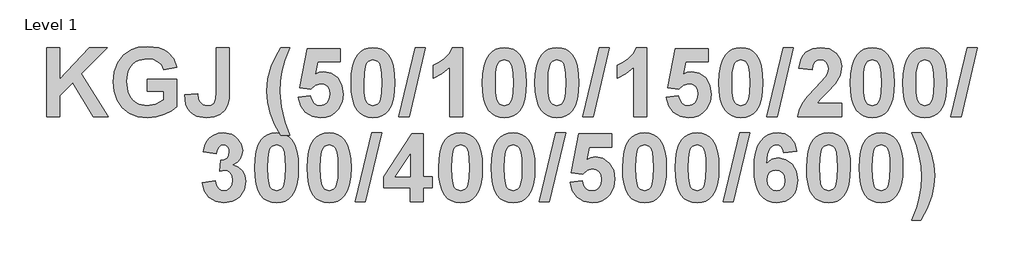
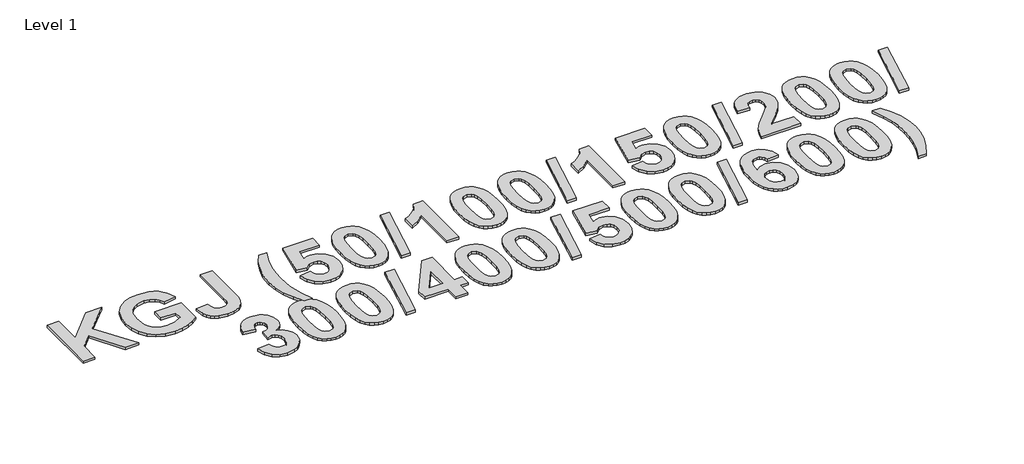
# One storey, part 21 of 42: 1 proxy.
"""IFC4 building model written with IfcOpenShell, lengths in millimetres."""

from ifc_helpers import new_model, si_unit, origin, origin_with_axes, place, context, project, spatial, polyline, outline, extrude, element, save

model = new_model("IFC4")

# Units and contexts
model_context = context("Model", 3, world=origin())
ifc_project = project(units=[si_unit("LENGTHUNIT", "METRE", prefix="MILLI")], contexts=[model_context])

# Site, building, storey
site = spatial("IfcSite", under=ifc_project)
building = spatial("IfcBuilding", under=site)
storey = spatial("IfcBuildingStorey", under=building, Name="Level 1", Elevation=0.0)

# Proxy
placement = place(None, origin())
element("IfcBuildingElementProxy", 1, Name="300mm Arial 2", ObjectType="300mm Arial 2", at=placement, inside=storey, context=model_context, shape_type="SweptSolid", body=[
    extrude(outline(polyline([(-7254.0265891, 14366.2760859), (-7254.0265891, 14621.3409359), (-7205.4428082, 14621.3409359), (-7205.4428082, 14505.0688143), (-7096.0027808, 14621.3409359), (-7029.3266022, 14621.3409359), (-7125.8615628, 14523.9203335), (-7025.2779538, 14366.2760859), (-7082.0855519, 14366.2760859), (-7157.4283684, 14491.9739671), (-7205.4428082, 14443.4534463), (-7205.4428082, 14366.2760859), (-7254.0265891, 14366.2760859)])), origin_with_axes(), (0.0, 0.0, 1.0), 10.0),
    extrude(outline(polyline([(-6881.5509352, 14459.3949994), (-6881.5509352, 14503.930132), (-6772.237428, 14503.930132), (-6772.237428, 14402.2078406), (-6791.7531786, 14387.2863571), (-6818.417324, 14374.2784926), (-6848.8454472, 14365.2402013), (-6879.6531312, 14362.2274375), (-6916.4863428, 14366.4184212), (-6948.2903739, 14378.9913724), (-6973.9423572, 14399.3532272), (-6992.3194253, 14426.9109219), (-7003.3741333, 14459.434537), (-7007.059036, 14494.6941528), (-7002.8917748, 14532.2153182), (-6990.3899913, 14565.3240895), (-6969.8541712, 14592.6287438), (-6941.5847999, 14612.737558), (-6914.0982728, 14622.2265778), (-6880.6020332, 14625.3895843), (-6838.399618, 14620.2813287), (-6821.1829779, 14613.8960092), (-6806.5560493, 14604.9565619), (-6784.6443213, 14580.6172263), (-6772.237428, 14548.4652645), (-6820.821209, 14540.3679677), (-6828.997581, 14557.1714401), (-6842.1398733, 14570.0053393), (-6859.7103748, 14578.1421737), (-6881.1713744, 14580.8544518), (-6912.9754055, 14575.5564158), (-6926.1611891, 14568.9338708), (-6937.5361515, 14559.6623078), (-6946.6970093, 14547.7812643), (-6953.2404791, 14533.330278), (-6958.475255, 14496.718477), (-6953.2721092, 14457.3627677), (-6946.7681769, 14441.9015962), (-6937.6626718, 14429.2515468), (-6926.4458597, 14419.4126195), (-6913.6080068, 14412.3848142), (-6883.0691783, 14406.7625701), (-6849.6361989, 14412.9304329), (-6820.821209, 14427.891454), (-6820.821209, 14459.3949994), (-6881.5509352, 14459.3949994)])), origin_with_axes(), (0.0, 0.0, 1.0), 10.0),
    extrude(outline(polyline([(-6626.4860852, 14621.3409359), (-6577.9023042, 14621.3409359), (-6577.9023042, 14460.0908609), (-6579.3256572, 14432.0982527), (-6583.5957161, 14411.3805597), (-6594.2866783, 14391.358728), (-6611.1771334, 14375.7018455), (-6634.3619716, 14365.5960395), (-6663.936083, 14362.2274375), (-6697.9067736, 14367.6282712), (-6711.570962, 14374.3793134), (-6723.0210458, 14383.8307724), (-6732.0830596, 14395.8956656), (-6738.5830381, 14410.4870103), (-6743.8968892, 14447.2490542), (-6695.3131082, 14451.2977026), (-6693.0831886, 14432.6675939), (-6688.2912336, 14420.4267584), (-6676.8727799, 14410.1786172), (-6660.7098163, 14406.7625701), (-6644.7287256, 14409.2139001), (-6634.2354513, 14416.5678904), (-6628.4234267, 14431.6238017), (-6626.4860852, 14457.1808948), (-6626.4860852, 14621.3409359)])), origin_with_axes(), (0.0, 0.0, 1.0), 10.0),
    extrude(outline(polyline([(-6355.2266415, 14297.4490629), (-6387.6158288, 14297.4490629), (-6410.2866785, 14337.1210729), (-6426.8054803, 14378.327141), (-6436.8875637, 14419.6280993), (-6440.2482582, 14459.5847798), (-6436.1363497, 14506.9824333), (-6423.800624, 14551.7547913), (-6407.6060304, 14588.0344767), (-6387.6158288, 14621.3409359), (-6355.2266415, 14621.3409359), (-6372.7892355, 14574.1014328), (-6383.851851, 14534.4847754), (-6389.7113207, 14497.6041188), (-6391.6644773, 14458.5726177), (-6386.9832275, 14401.92317), (-6374.1414209, 14346.8552256), (-6355.2266415, 14297.4490629)])), origin_with_axes(), (0.0, 0.0, 1.0), 10.0),
    extrude(outline(polyline([(-6322.8374542, 14438.0763351), (-6278.3023217, 14443.2004058), (-6274.1587831, 14428.1286795), (-6265.9033359, 14416.5678904), (-6254.8011829, 14409.2139001), (-6242.1175265, 14406.7625701), (-6227.9235345, 14409.364143), (-6216.0859824, 14417.1688617), (-6208.0914833, 14430.2083563), (-6205.4266503, 14448.5142568), (-6207.9017029, 14465.6735675), (-6215.3268609, 14477.9302179), (-6226.721592, 14485.2842082), (-6241.1053644, 14487.7355383), (-6259.9252535, 14482.6747278), (-6276.6575583, 14467.4922962), (-6318.7888058, 14473.7550493), (-6290.4482669, 14617.2922875), (-6168.9888146, 14617.2922875), (-6168.9888146, 14568.7085066), (-6251.1637253, 14568.7085066), (-6260.9690457, 14522.3388302), (-6245.4861285, 14529.7877107), (-6229.6552806, 14532.2706708), (-6201.5361522, 14526.5219064), (-6178.0350134, 14509.2756131), (-6162.1409053, 14482.8566007), (-6156.8428693, 14449.589679), (-6161.2552635, 14420.6639839), (-6174.492446, 14394.9961856), (-6187.7098597, 14380.6598583), (-6203.2599908, 14370.4196245), (-6221.1428392, 14364.2754843), (-6241.3584049, 14362.2274375), (-6272.3637769, 14367.3673232), (-6297.0589507, 14382.7869802), (-6314.273614, 14406.8890903), (-6322.8374542, 14438.0763351)])), origin_with_axes(), (0.0, 0.0, 1.0), 10.0),
    extrude(outline(polyline([(-6047.5293622, 14621.3409359), (-6030.3977279, 14619.6961725), (-6015.2508801, 14614.7618822), (-6002.088819, 14606.5380652), (-5990.9115446, 14595.0247212), (-5980.2561662, 14576.8967398), (-5972.6451816, 14553.6367802), (-5968.0785909, 14525.2448425), (-5966.5563939, 14491.7209266), (-5968.0864984, 14458.2286407), (-5972.6768117, 14429.8050729), (-5980.3273338, 14406.4502232), (-5991.0380648, 14388.1640914), (-6002.1599867, 14376.8168053), (-6015.2825102, 14368.711601), (-6030.4056354, 14363.8484784), (-6047.5293622, 14362.2274375), (-6064.8369388, 14364.0066287), (-6080.385093, 14369.3442023), (-6094.1738247, 14378.2401583), (-6106.2031341, 14390.6944967), (-6115.9590325, 14407.7154258), (-6122.9275314, 14430.311154), (-6127.1086307, 14458.4816813), (-6128.5023304, 14492.2270076), (-6126.972226, 14525.5532356), (-6122.3819127, 14553.8581907), (-6114.7313906, 14577.1418728), (-6104.0206596, 14595.404282), (-6092.8987377, 14606.7515681), (-6079.7762142, 14614.8567724), (-6064.653089, 14619.7198951), (-6047.5293622, 14621.3409359)]), holes=[polyline([(-6047.5293622, 14576.8058034), (-6063.7239558, 14571.4603223), (-6070.049969, 14563.9877192), (-6074.7312187, 14552.2608724), (-6078.6217168, 14528.1113172), (-6079.9185495, 14491.7209266), (-6078.7640521, 14455.8128945), (-6075.3005599, 14433.2369351), (-6070.0736915, 14419.9839375), (-6063.6290657, 14412.044791), (-6047.5293622, 14406.7625701), (-6031.3347685, 14412.1080512), (-6025.0087554, 14419.5806542), (-6020.3275057, 14431.3075011), (-6016.4370076, 14455.330536), (-6015.1401749, 14491.7209266), (-6016.2946723, 14527.5894211), (-6019.7581645, 14550.173288), (-6024.9850329, 14563.4658232), (-6031.4296587, 14571.4603223), (-6047.5293622, 14576.8058034)])]), origin_with_axes(), (0.0, 0.0, 1.0), 10.0),
    extrude(outline(polyline([(-5951.2474421, 14366.2760859), (-5890.5177159, 14621.3409359), (-5853.1942384, 14621.3409359), (-5913.9239646, 14366.2760859), (-5951.2474421, 14366.2760859)])), origin_with_axes(), (0.0, 0.0, 1.0), 10.0),
    extrude(outline(polyline([(-5715.5401924, 14366.2760859), (-5764.1239733, 14366.2760859), (-5764.1239733, 14548.5917848), (-5792.1798416, 14524.7110851), (-5824.8536995, 14507.9787804), (-5824.8536995, 14556.5625613), (-5805.3853941, 14565.6482977), (-5784.3039553, 14580.3800008), (-5765.8478119, 14599.3975778), (-5754.2553928, 14621.3409359), (-5715.5401924, 14621.3409359), (-5715.5401924, 14366.2760859)])), origin_with_axes(), (0.0, 0.0, 1.0), 10.0),
    extrude(outline(polyline([(-5561.6915527, 14621.3409359), (-5544.5599183, 14619.6961725), (-5529.4130706, 14614.7618822), (-5516.2510095, 14606.5380652), (-5505.0737351, 14595.0247212), (-5494.4183567, 14576.8967398), (-5486.8073721, 14553.6367802), (-5482.2407814, 14525.2448425), (-5480.7185844, 14491.7209266), (-5482.2486889, 14458.2286407), (-5486.8390022, 14429.8050729), (-5494.4895243, 14406.4502232), (-5505.2002553, 14388.1640914), (-5516.3221772, 14376.8168053), (-5529.4447007, 14368.711601), (-5544.5678259, 14363.8484784), (-5561.6915527, 14362.2274375), (-5578.9991293, 14364.0066287), (-5594.5472835, 14369.3442023), (-5608.3360152, 14378.2401583), (-5620.3653246, 14390.6944967), (-5630.121223, 14407.7154258), (-5637.0897219, 14430.311154), (-5641.2708212, 14458.4816813), (-5642.6645209, 14492.2270076), (-5641.1344165, 14525.5532356), (-5636.5441032, 14553.8581907), (-5628.8935811, 14577.1418728), (-5618.1828501, 14595.404282), (-5607.0609282, 14606.7515681), (-5593.9384047, 14614.8567724), (-5578.8152795, 14619.7198951), (-5561.6915527, 14621.3409359)]), holes=[polyline([(-5561.6915527, 14576.8058034), (-5577.8861463, 14571.4603223), (-5584.2121595, 14563.9877192), (-5588.8934092, 14552.2608724), (-5592.7839073, 14528.1113172), (-5594.08074, 14491.7209266), (-5592.9262426, 14455.8128945), (-5589.4627504, 14433.2369351), (-5584.235882, 14419.9839375), (-5577.7912561, 14412.044791), (-5561.6915527, 14406.7625701), (-5545.496959, 14412.1080512), (-5539.1709459, 14419.5806542), (-5534.4896962, 14431.3075011), (-5530.5991981, 14455.330536), (-5529.3023654, 14491.7209266), (-5530.4568628, 14527.5894211), (-5533.920355, 14550.173288), (-5539.1472234, 14563.4658232), (-5545.5918492, 14571.4603223), (-5561.6915527, 14576.8058034)])]), origin_with_axes(), (0.0, 0.0, 1.0), 10.0),
    extrude(outline(polyline([(-5367.3564289, 14621.3409359), (-5350.2247945, 14619.6961725), (-5335.0779468, 14614.7618822), (-5321.9158857, 14606.5380652), (-5310.7386112, 14595.0247212), (-5300.0832329, 14576.8967398), (-5292.4722483, 14553.6367802), (-5287.9056576, 14525.2448425), (-5286.3834606, 14491.7209266), (-5287.9135651, 14458.2286407), (-5292.5038784, 14429.8050729), (-5300.1544005, 14406.4502232), (-5310.8651315, 14388.1640914), (-5321.9870534, 14376.8168053), (-5335.1095769, 14368.711601), (-5350.2327021, 14363.8484784), (-5367.3564289, 14362.2274375), (-5384.6640055, 14364.0066287), (-5400.2121597, 14369.3442023), (-5414.0008914, 14378.2401583), (-5426.0302008, 14390.6944967), (-5435.7860992, 14407.7154258), (-5442.7545981, 14430.311154), (-5446.9356974, 14458.4816813), (-5448.3293971, 14492.2270076), (-5446.7992927, 14525.5532356), (-5442.2089794, 14553.8581907), (-5434.5584573, 14577.1418728), (-5423.8477263, 14595.404282), (-5412.7258044, 14606.7515681), (-5399.6032809, 14614.8567724), (-5384.4801557, 14619.7198951), (-5367.3564289, 14621.3409359)]), holes=[polyline([(-5367.3564289, 14576.8058034), (-5383.5510225, 14571.4603223), (-5389.8770357, 14563.9877192), (-5394.5582854, 14552.2608724), (-5398.4487835, 14528.1113172), (-5399.7456162, 14491.7209266), (-5398.5911188, 14455.8128945), (-5395.1276266, 14433.2369351), (-5389.9007582, 14419.9839375), (-5383.4561323, 14412.044791), (-5367.3564289, 14406.7625701), (-5351.1618352, 14412.1080512), (-5344.8358221, 14419.5806542), (-5340.1545724, 14431.3075011), (-5336.2640743, 14455.330536), (-5334.9672416, 14491.7209266), (-5336.121739, 14527.5894211), (-5339.5852312, 14550.173288), (-5344.8120995, 14563.4658232), (-5351.2567254, 14571.4603223), (-5367.3564289, 14576.8058034)])]), origin_with_axes(), (0.0, 0.0, 1.0), 10.0),
    extrude(outline(polyline([(-5271.0745088, 14366.2760859), (-5210.3447826, 14621.3409359), (-5173.0213051, 14621.3409359), (-5233.7510313, 14366.2760859), (-5271.0745088, 14366.2760859)])), origin_with_axes(), (0.0, 0.0, 1.0), 10.0),
    extrude(outline(polyline([(-5035.3672591, 14366.2760859), (-5083.95104, 14366.2760859), (-5083.95104, 14548.5917848), (-5112.0069083, 14524.7110851), (-5144.6807662, 14507.9787804), (-5144.6807662, 14556.5625613), (-5125.2124608, 14565.6482977), (-5104.1310219, 14580.3800008), (-5085.6748786, 14599.3975778), (-5074.0824595, 14621.3409359), (-5035.3672591, 14621.3409359), (-5035.3672591, 14366.2760859)])), origin_with_axes(), (0.0, 0.0, 1.0), 10.0),
    extrude(outline(polyline([(-4962.4915876, 14438.0763351), (-4917.9564551, 14443.2004058), (-4913.8129165, 14428.1286795), (-4905.5574693, 14416.5678904), (-4894.4553163, 14409.2139001), (-4881.7716599, 14406.7625701), (-4867.5776679, 14409.364143), (-4855.7401158, 14417.1688617), (-4847.7456167, 14430.2083563), (-4845.0807837, 14448.5142568), (-4847.5558363, 14465.6735675), (-4854.9809942, 14477.9302179), (-4866.3757254, 14485.2842082), (-4880.7594978, 14487.7355383), (-4899.5793869, 14482.6747278), (-4916.3116917, 14467.4922962), (-4958.4429392, 14473.7550493), (-4930.1024003, 14617.2922875), (-4808.642948, 14617.2922875), (-4808.642948, 14568.7085066), (-4890.8178587, 14568.7085066), (-4900.6231791, 14522.3388302), (-4885.1402619, 14529.7877107), (-4869.309414, 14532.2706708), (-4841.1902856, 14526.5219064), (-4817.6891468, 14509.2756131), (-4801.7950387, 14482.8566007), (-4796.4970027, 14449.589679), (-4800.9093969, 14420.6639839), (-4814.1465794, 14394.9961856), (-4827.3639931, 14380.6598583), (-4842.9141242, 14370.4196245), (-4860.7969726, 14364.2754843), (-4881.0125383, 14362.2274375), (-4912.0179103, 14367.3673232), (-4936.7130841, 14382.7869802), (-4953.9277473, 14406.8890903), (-4962.4915876, 14438.0763351)])), origin_with_axes(), (0.0, 0.0, 1.0), 10.0),
    extrude(outline(polyline([(-4687.1834956, 14621.3409359), (-4670.0518612, 14619.6961725), (-4654.9050135, 14614.7618822), (-4641.7429524, 14606.5380652), (-4630.5656779, 14595.0247212), (-4619.9102996, 14576.8967398), (-4612.299315, 14553.6367802), (-4607.7327243, 14525.2448425), (-4606.2105273, 14491.7209266), (-4607.7406318, 14458.2286407), (-4612.3309451, 14429.8050729), (-4619.9814672, 14406.4502232), (-4630.6921982, 14388.1640914), (-4641.8141201, 14376.8168053), (-4654.9366436, 14368.711601), (-4670.0597688, 14363.8484784), (-4687.1834956, 14362.2274375), (-4704.4910722, 14364.0066287), (-4720.0392264, 14369.3442023), (-4733.8279581, 14378.2401583), (-4745.8572675, 14390.6944967), (-4755.6131659, 14407.7154258), (-4762.5816648, 14430.311154), (-4766.7627641, 14458.4816813), (-4768.1564638, 14492.2270076), (-4766.6263594, 14525.5532356), (-4762.0360461, 14553.8581907), (-4754.385524, 14577.1418728), (-4743.674793, 14595.404282), (-4732.5528711, 14606.7515681), (-4719.4303476, 14614.8567724), (-4704.3072224, 14619.7198951), (-4687.1834956, 14621.3409359)]), holes=[polyline([(-4687.1834956, 14576.8058034), (-4703.3780892, 14571.4603223), (-4709.7041024, 14563.9877192), (-4714.3853521, 14552.2608724), (-4718.2758502, 14528.1113172), (-4719.5726829, 14491.7209266), (-4718.4181855, 14455.8128945), (-4714.9546933, 14433.2369351), (-4709.7278249, 14419.9839375), (-4703.283199, 14412.044791), (-4687.1834956, 14406.7625701), (-4670.9889019, 14412.1080512), (-4664.6628888, 14419.5806542), (-4659.9816391, 14431.3075011), (-4656.091141, 14455.330536), (-4654.7943083, 14491.7209266), (-4655.9488057, 14527.5894211), (-4659.4122979, 14550.173288), (-4664.6391662, 14563.4658232), (-4671.0837921, 14571.4603223), (-4687.1834956, 14576.8058034)])]), origin_with_axes(), (0.0, 0.0, 1.0), 10.0),
    extrude(outline(polyline([(-4590.9015755, 14366.2760859), (-4530.1718493, 14621.3409359), (-4492.8483718, 14621.3409359), (-4553.578098, 14366.2760859), (-4590.9015755, 14366.2760859)])), origin_with_axes(), (0.0, 0.0, 1.0), 10.0),
    extrude(outline(polyline([(-4314.7078416, 14414.8598669), (-4314.7078416, 14366.2760859), (-4476.6537781, 14366.2760859), (-4471.4822624, 14390.7814793), (-4461.1550459, 14413.942595), (-4441.9714111, 14440.1243819), (-4410.2306401, 14473.6917891), (-4372.654122, 14514.4313138), (-4365.6322474, 14529.1392943), (-4363.2916226, 14543.6574945), (-4365.2605942, 14557.8040414), (-4371.167509, 14568.2340556), (-4380.5379159, 14574.6628664), (-4392.8973641, 14576.8058034), (-4405.1698296, 14574.6944965), (-4414.6588493, 14568.3605758), (-4421.0481226, 14557.13981), (-4424.0213488, 14540.3679677), (-4472.6051297, 14544.7961769), (-4464.0017518, 14579.9450874), (-4456.378906, 14593.1842468), (-4446.5419556, 14603.5332089), (-4421.9179494, 14616.8890042), (-4391.8219419, 14621.3409359), (-4359.6857951, 14616.3512931), (-4335.2673844, 14601.3823644), (-4319.8477273, 14578.9961854), (-4314.7078416, 14551.7547913), (-4320.3379933, 14519.6186446), (-4338.1773504, 14487.6722782), (-4368.3840632, 14455.7891719), (-4396.1236308, 14428.1444945), (-4405.2330897, 14414.8598669), (-4314.7078416, 14414.8598669)])), origin_with_axes(), (0.0, 0.0, 1.0), 10.0),
    extrude(outline(polyline([(-4201.3456861, 14621.3409359), (-4184.2140517, 14619.6961725), (-4169.067204, 14614.7618822), (-4155.9051429, 14606.5380652), (-4144.7278684, 14595.0247212), (-4134.0724901, 14576.8967398), (-4126.4615055, 14553.6367802), (-4121.8949147, 14525.2448425), (-4120.3727178, 14491.7209266), (-4121.9028223, 14458.2286407), (-4126.4931356, 14429.8050729), (-4134.1436577, 14406.4502232), (-4144.8543887, 14388.1640914), (-4155.9763106, 14376.8168053), (-4169.0988341, 14368.711601), (-4184.2219593, 14363.8484784), (-4201.3456861, 14362.2274375), (-4218.6532627, 14364.0066287), (-4234.2014169, 14369.3442023), (-4247.9901486, 14378.2401583), (-4260.019458, 14390.6944967), (-4269.7753564, 14407.7154258), (-4276.7438553, 14430.311154), (-4280.9249546, 14458.4816813), (-4282.3186543, 14492.2270076), (-4280.7885499, 14525.5532356), (-4276.1982366, 14553.8581907), (-4268.5477145, 14577.1418728), (-4257.8369835, 14595.404282), (-4246.7150616, 14606.7515681), (-4233.5925381, 14614.8567724), (-4218.4694129, 14619.7198951), (-4201.3456861, 14621.3409359)]), holes=[polyline([(-4201.3456861, 14576.8058034), (-4217.5402797, 14571.4603223), (-4223.8662929, 14563.9877192), (-4228.5475426, 14552.2608724), (-4232.4380407, 14528.1113172), (-4233.7348734, 14491.7209266), (-4232.580376, 14455.8128945), (-4229.1168838, 14433.2369351), (-4223.8900154, 14419.9839375), (-4217.4453895, 14412.044791), (-4201.3456861, 14406.7625701), (-4185.1510924, 14412.1080512), (-4178.8250793, 14419.5806542), (-4174.1438296, 14431.3075011), (-4170.2533315, 14455.330536), (-4168.9564988, 14491.7209266), (-4170.1109962, 14527.5894211), (-4173.5744884, 14550.173288), (-4178.8013567, 14563.4658232), (-4185.2459826, 14571.4603223), (-4201.3456861, 14576.8058034)])]), origin_with_axes(), (0.0, 0.0, 1.0), 10.0),
    extrude(outline(polyline([(-4007.0105623, 14621.3409359), (-3989.8789279, 14619.6961725), (-3974.7320802, 14614.7618822), (-3961.5700191, 14606.5380652), (-3950.3927446, 14595.0247212), (-3939.7373662, 14576.8967398), (-3932.1263817, 14553.6367802), (-3927.5597909, 14525.2448425), (-3926.037594, 14491.7209266), (-3927.5676985, 14458.2286407), (-3932.1580118, 14429.8050729), (-3939.8085339, 14406.4502232), (-3950.5192649, 14388.1640914), (-3961.6411868, 14376.8168053), (-3974.7637103, 14368.711601), (-3989.8868355, 14363.8484784), (-4007.0105623, 14362.2274375), (-4024.3181389, 14364.0066287), (-4039.8662931, 14369.3442023), (-4053.6550248, 14378.2401583), (-4065.6843342, 14390.6944967), (-4075.4402326, 14407.7154258), (-4082.4087315, 14430.311154), (-4086.5898308, 14458.4816813), (-4087.9835305, 14492.2270076), (-4086.4534261, 14525.5532356), (-4081.8631128, 14553.8581907), (-4074.2125907, 14577.1418728), (-4063.5018597, 14595.404282), (-4052.3799378, 14606.7515681), (-4039.2574143, 14614.8567724), (-4024.1342891, 14619.7198951), (-4007.0105623, 14621.3409359)]), holes=[polyline([(-4007.0105623, 14576.8058034), (-4023.2051559, 14571.4603223), (-4029.5311691, 14563.9877192), (-4034.2124188, 14552.2608724), (-4038.1029169, 14528.1113172), (-4039.3997496, 14491.7209266), (-4038.2452522, 14455.8128945), (-4034.78176, 14433.2369351), (-4029.5548916, 14419.9839375), (-4023.1102657, 14412.044791), (-4007.0105623, 14406.7625701), (-3990.8159686, 14412.1080512), (-3984.4899555, 14419.5806542), (-3979.8087058, 14431.3075011), (-3975.9182077, 14455.330536), (-3974.621375, 14491.7209266), (-3975.7758724, 14527.5894211), (-3979.2393646, 14550.173288), (-3984.4662329, 14563.4658232), (-3990.9108588, 14571.4603223), (-4007.0105623, 14576.8058034)])]), origin_with_axes(), (0.0, 0.0, 1.0), 10.0),
    extrude(outline(polyline([(-3910.7286422, 14366.2760859), (-3849.998916, 14621.3409359), (-3812.6754385, 14621.3409359), (-3873.4051647, 14366.2760859), (-3910.7286422, 14366.2760859)])), origin_with_axes(), (0.0, 0.0, 1.0), 10.0),
    extrude(outline(polyline([(-6679.1185146, 14122.7918795), (-6630.5347336, 14128.4220312), (-6626.7865708, 14112.7967787), (-6619.5907309, 14101.3466949), (-6609.7379654, 14094.3248203), (-6598.019026, 14091.9841955), (-6585.4460749, 14094.6648435), (-6575.0555983, 14102.7067877), (-6568.0811688, 14115.2876464), (-6565.756359, 14131.5850377), (-6567.8834809, 14147.0046948), (-6574.2648467, 14158.8501544), (-6583.7143288, 14166.3939251), (-6595.0457999, 14168.9085153), (-6614.34014, 14165.3026878), (-6610.1017111, 14205.346351), (-6596.2714649, 14207.0860046), (-6586.1577514, 14213.3171276), (-6579.966166, 14223.1857081), (-6577.9023042, 14235.8377344), (-6579.4442699, 14246.5840492), (-6584.0701671, 14254.910664), (-6591.2580995, 14260.2482376), (-6600.4861712, 14262.0274288), (-6609.8723932, 14259.963567), (-6617.7878171, 14253.7719816), (-6623.5523966, 14243.610823), (-6626.4860852, 14229.6382415), (-6675.0698661, 14236.9131566), (-6669.5108821, 14258.6509193), (-6661.6903483, 14275.5334668), (-6650.9677561, 14288.4464412), (-6636.7025964, 14298.2754841), (-6619.7093436, 14304.490792), (-6600.8024718, 14306.5625613), (-6570.1529381, 14300.8217044), (-6557.3664841, 14293.6456332), (-6546.2722385, 14283.5991336), (-6533.5569521, 14263.577302), (-6529.3185233, 14241.0883253), (-6531.5919343, 14225.1428184), (-6538.4121672, 14210.8974275), (-6549.7792221, 14198.3521527), (-6565.6930989, 14187.5069939), (-6545.8294176, 14179.9553157), (-6530.3939455, 14166.6627806), (-6520.4779199, 14148.799701), (-6517.1725781, 14127.5363893), (-6523.0320477, 14096.7682429), (-6540.6104568, 14070.8869416), (-6553.0470032, 14060.6328697), (-6566.9187639, 14053.3085326), (-6598.967928, 14047.4490629), (-6629.2299934, 14052.6601162), (-6653.846092, 14068.2932762), (-6671.0607553, 14092.3400337), (-6679.1185146, 14122.7918795)])), origin_with_axes(), (0.0, 0.0, 1.0), 10.0),
    extrude(outline(polyline([(-6403.8104225, 14306.5625613), (-6386.6787882, 14304.9177979), (-6371.5319404, 14299.9835076), (-6358.3698793, 14291.7596906), (-6347.1926049, 14280.2463466), (-6336.5372265, 14262.1183652), (-6328.9262419, 14238.8584056), (-6324.3596512, 14210.4664679), (-6322.8374542, 14176.942552), (-6324.3675587, 14143.4502661), (-6328.957872, 14115.0266983), (-6336.6083941, 14091.6718486), (-6347.3191251, 14073.3857168), (-6358.441047, 14062.0384307), (-6371.5635705, 14053.9332264), (-6386.6866957, 14049.0701038), (-6403.8104225, 14047.4490629), (-6421.1179991, 14049.2282541), (-6436.6661533, 14054.5658277), (-6450.454885, 14063.4617837), (-6462.4841944, 14075.9161221), (-6472.2400928, 14092.9370512), (-6479.2085917, 14115.5327794), (-6483.389691, 14143.7033067), (-6484.7833908, 14177.448633), (-6483.2532863, 14210.774861), (-6478.662973, 14239.0798161), (-6471.0124509, 14262.3634982), (-6460.3017199, 14280.6259074), (-6449.179798, 14291.9731935), (-6436.0572745, 14300.0783978), (-6420.9341493, 14304.9415205), (-6403.8104225, 14306.5625613)]), holes=[polyline([(-6403.8104225, 14262.0274288), (-6420.0050161, 14256.6819477), (-6426.3310293, 14249.2093446), (-6431.012279, 14237.4824978), (-6434.9027771, 14213.3329426), (-6436.1996098, 14176.942552), (-6435.0451124, 14141.0345199), (-6431.5816202, 14118.4585605), (-6426.3547518, 14105.2055629), (-6419.910126, 14097.2664164), (-6403.8104225, 14091.9841955), (-6387.6158288, 14097.3296766), (-6381.2898157, 14104.8022796), (-6376.608566, 14116.5291265), (-6372.7180679, 14140.5521614), (-6371.4212352, 14176.942552), (-6372.5757326, 14212.8110465), (-6376.0392248, 14235.3949134), (-6381.2660932, 14248.6874486), (-6387.710719, 14256.6819477), (-6403.8104225, 14262.0274288)])]), origin_with_axes(), (0.0, 0.0, 1.0), 10.0),
    extrude(outline(polyline([(-6209.4752987, 14306.5625613), (-6192.3436644, 14304.9177979), (-6177.1968166, 14299.9835076), (-6164.0347555, 14291.7596906), (-6152.8574811, 14280.2463466), (-6142.2021027, 14262.1183652), (-6134.5911181, 14238.8584056), (-6130.0245274, 14210.4664679), (-6128.5023304, 14176.942552), (-6130.0324349, 14143.4502661), (-6134.6227482, 14115.0266983), (-6142.2732703, 14091.6718486), (-6152.9840013, 14073.3857168), (-6164.1059232, 14062.0384307), (-6177.2284467, 14053.9332264), (-6192.3515719, 14049.0701038), (-6209.4752987, 14047.4490629), (-6226.7828753, 14049.2282541), (-6242.3310295, 14054.5658277), (-6256.1197612, 14063.4617837), (-6268.1490706, 14075.9161221), (-6277.904969, 14092.9370512), (-6284.8734679, 14115.5327794), (-6289.0545672, 14143.7033067), (-6290.4482669, 14177.448633), (-6288.9181625, 14210.774861), (-6284.3278492, 14239.0798161), (-6276.6773271, 14262.3634982), (-6265.9665961, 14280.6259074), (-6254.8446742, 14291.9731935), (-6241.7221507, 14300.0783978), (-6226.5990255, 14304.9415205), (-6209.4752987, 14306.5625613)]), holes=[polyline([(-6209.4752987, 14262.0274288), (-6225.6698923, 14256.6819477), (-6231.9959055, 14249.2093446), (-6236.6771552, 14237.4824978), (-6240.5676533, 14213.3329426), (-6241.864486, 14176.942552), (-6240.7099886, 14141.0345199), (-6237.2464964, 14118.4585605), (-6232.019628, 14105.2055629), (-6225.5750022, 14097.2664164), (-6209.4752987, 14091.9841955), (-6193.280705, 14097.3296766), (-6186.9546919, 14104.8022796), (-6182.2734422, 14116.5291265), (-6178.3829441, 14140.5521614), (-6177.0861114, 14176.942552), (-6178.2406088, 14212.8110465), (-6181.704101, 14235.3949134), (-6186.9309694, 14248.6874486), (-6193.3755952, 14256.6819477), (-6209.4752987, 14262.0274288)])]), origin_with_axes(), (0.0, 0.0, 1.0), 10.0),
    extrude(outline(polyline([(-6113.1933786, 14051.4977113), (-6052.4636525, 14306.5625613), (-6015.1401749, 14306.5625613), (-6075.8699011, 14051.4977113), (-6113.1933786, 14051.4977113)])), origin_with_axes(), (0.0, 0.0, 1.0), 10.0),
    extrude(outline(polyline([(-5909.8753162, 14051.4977113), (-5909.8753162, 14104.1301407), (-6007.0428781, 14104.1301407), (-6007.0428781, 14144.4268444), (-5903.4227828, 14302.5139129), (-5861.2915352, 14302.5139129), (-5861.2915352, 14144.6166248), (-5828.9023479, 14144.6166248), (-5828.9023479, 14104.1301407), (-5861.2915352, 14104.1301407), (-5861.2915352, 14051.4977113), (-5909.8753162, 14051.4977113)]), holes=[polyline([(-5909.8753162, 14144.6166248), (-5909.8753162, 14227.487397), (-5964.152509, 14144.6166248), (-5909.8753162, 14144.6166248)])]), origin_with_axes(), (0.0, 0.0, 1.0), 10.0),
    extrude(outline(polyline([(-5723.6374892, 14306.5625613), (-5706.5058548, 14304.9177979), (-5691.3590071, 14299.9835076), (-5678.196946, 14291.7596906), (-5667.0196716, 14280.2463466), (-5656.3642932, 14262.1183652), (-5648.7533086, 14238.8584056), (-5644.1867179, 14210.4664679), (-5642.6645209, 14176.942552), (-5644.1946254, 14143.4502661), (-5648.7849387, 14115.0266983), (-5656.4354608, 14091.6718486), (-5667.1461918, 14073.3857168), (-5678.2681137, 14062.0384307), (-5691.3906372, 14053.9332264), (-5706.5137624, 14049.0701038), (-5723.6374892, 14047.4490629), (-5740.9450658, 14049.2282541), (-5756.49322, 14054.5658277), (-5770.2819517, 14063.4617837), (-5782.3112611, 14075.9161221), (-5792.0671595, 14092.9370512), (-5799.0356584, 14115.5327794), (-5803.2167577, 14143.7033067), (-5804.6104574, 14177.448633), (-5803.080353, 14210.774861), (-5798.4900397, 14239.0798161), (-5790.8395176, 14262.3634982), (-5780.1287866, 14280.6259074), (-5769.0068647, 14291.9731935), (-5755.8843412, 14300.0783978), (-5740.761216, 14304.9415205), (-5723.6374892, 14306.5625613)]), holes=[polyline([(-5723.6374892, 14262.0274288), (-5739.8320828, 14256.6819477), (-5746.158096, 14249.2093446), (-5750.8393457, 14237.4824978), (-5754.7298438, 14213.3329426), (-5756.0266765, 14176.942552), (-5754.8721791, 14141.0345199), (-5751.4086869, 14118.4585605), (-5746.1818185, 14105.2055629), (-5739.7371926, 14097.2664164), (-5723.6374892, 14091.9841955), (-5707.4428955, 14097.3296766), (-5701.1168824, 14104.8022796), (-5696.4356327, 14116.5291265), (-5692.5451346, 14140.5521614), (-5691.2483019, 14176.942552), (-5692.4027993, 14212.8110465), (-5695.8662915, 14235.3949134), (-5701.0931599, 14248.6874486), (-5707.5377857, 14256.6819477), (-5723.6374892, 14262.0274288)])]), origin_with_axes(), (0.0, 0.0, 1.0), 10.0),
    extrude(outline(polyline([(-5529.3023654, 14306.5625613), (-5512.170731, 14304.9177979), (-5497.0238833, 14299.9835076), (-5483.8618222, 14291.7596906), (-5472.6845477, 14280.2463466), (-5462.0291694, 14262.1183652), (-5454.4181848, 14238.8584056), (-5449.8515941, 14210.4664679), (-5448.3293971, 14176.942552), (-5449.8595016, 14143.4502661), (-5454.4498149, 14115.0266983), (-5462.100337, 14091.6718486), (-5472.811068, 14073.3857168), (-5483.9329899, 14062.0384307), (-5497.0555134, 14053.9332264), (-5512.1786386, 14049.0701038), (-5529.3023654, 14047.4490629), (-5546.609942, 14049.2282541), (-5562.1580962, 14054.5658277), (-5575.9468279, 14063.4617837), (-5587.9761373, 14075.9161221), (-5597.7320357, 14092.9370512), (-5604.7005346, 14115.5327794), (-5608.8816339, 14143.7033067), (-5610.2753336, 14177.448633), (-5608.7452292, 14210.774861), (-5604.1549159, 14239.0798161), (-5596.5043938, 14262.3634982), (-5585.7936628, 14280.6259074), (-5574.6717409, 14291.9731935), (-5561.5492174, 14300.0783978), (-5546.4260922, 14304.9415205), (-5529.3023654, 14306.5625613)]), holes=[polyline([(-5529.3023654, 14262.0274288), (-5545.496959, 14256.6819477), (-5551.8229722, 14249.2093446), (-5556.5042219, 14237.4824978), (-5560.39472, 14213.3329426), (-5561.6915527, 14176.942552), (-5560.5370553, 14141.0345199), (-5557.0735631, 14118.4585605), (-5551.8466947, 14105.2055629), (-5545.4020688, 14097.2664164), (-5529.3023654, 14091.9841955), (-5513.1077717, 14097.3296766), (-5506.7817586, 14104.8022796), (-5502.1005089, 14116.5291265), (-5498.2100108, 14140.5521614), (-5496.9131781, 14176.942552), (-5498.0676755, 14212.8110465), (-5501.5311677, 14235.3949134), (-5506.758036, 14248.6874486), (-5513.2026619, 14256.6819477), (-5529.3023654, 14262.0274288)])]), origin_with_axes(), (0.0, 0.0, 1.0), 10.0),
    extrude(outline(polyline([(-5433.0204453, 14051.4977113), (-5372.2907191, 14306.5625613), (-5334.9672416, 14306.5625613), (-5395.6969678, 14051.4977113), (-5433.0204453, 14051.4977113)])), origin_with_axes(), (0.0, 0.0, 1.0), 10.0),
    extrude(outline(polyline([(-5318.7726479, 14123.2979605), (-5274.2375154, 14128.4220312), (-5270.0939768, 14113.3503049), (-5261.8385296, 14101.7895158), (-5250.7363766, 14094.4355255), (-5238.0527202, 14091.9841955), (-5223.8587282, 14094.5857684), (-5212.0211761, 14102.3904871), (-5204.026677, 14115.4299817), (-5201.361844, 14133.7358822), (-5203.8368966, 14150.8951929), (-5211.2620546, 14163.1518433), (-5222.6567857, 14170.5058336), (-5237.0405581, 14172.9571637), (-5255.8604472, 14167.8963532), (-5272.592752, 14152.7139216), (-5314.7239995, 14158.9766747), (-5286.3834606, 14302.5139129), (-5164.9240083, 14302.5139129), (-5164.9240083, 14253.930132), (-5247.098919, 14253.930132), (-5256.9042394, 14207.5604556), (-5241.4213222, 14215.0093361), (-5225.5904743, 14217.4922962), (-5197.4713459, 14211.7435318), (-5173.9702071, 14194.4972385), (-5158.076099, 14168.0782261), (-5152.778063, 14134.8113044), (-5157.1904572, 14105.8856093), (-5170.4276397, 14080.217811), (-5183.6450534, 14065.8814837), (-5199.1951845, 14055.6412499), (-5217.0780329, 14049.4971097), (-5237.2935986, 14047.4490629), (-5268.2989706, 14052.5889486), (-5292.9941444, 14068.0086056), (-5310.2088076, 14092.1107157), (-5318.7726479, 14123.2979605)])), origin_with_axes(), (0.0, 0.0, 1.0), 10.0),
    extrude(outline(polyline([(-5043.4645559, 14306.5625613), (-5026.3329215, 14304.9177979), (-5011.1860738, 14299.9835076), (-4998.0240127, 14291.7596906), (-4986.8467382, 14280.2463466), (-4976.1913599, 14262.1183652), (-4968.5803753, 14238.8584056), (-4964.0137846, 14210.4664679), (-4962.4915876, 14176.942552), (-4964.0216921, 14143.4502661), (-4968.6120054, 14115.0266983), (-4976.2625275, 14091.6718486), (-4986.9732585, 14073.3857168), (-4998.0951804, 14062.0384307), (-5011.2177039, 14053.9332264), (-5026.3408291, 14049.0701038), (-5043.4645559, 14047.4490629), (-5060.7721325, 14049.2282541), (-5076.3202867, 14054.5658277), (-5090.1090184, 14063.4617837), (-5102.1383278, 14075.9161221), (-5111.8942262, 14092.9370512), (-5118.8627251, 14115.5327794), (-5123.0438244, 14143.7033067), (-5124.4375241, 14177.448633), (-5122.9074197, 14210.774861), (-5118.3171064, 14239.0798161), (-5110.6665843, 14262.3634982), (-5099.9558533, 14280.6259074), (-5088.8339314, 14291.9731935), (-5075.7114079, 14300.0783978), (-5060.5882827, 14304.9415205), (-5043.4645559, 14306.5625613)]), holes=[polyline([(-5043.4645559, 14262.0274288), (-5059.6591495, 14256.6819477), (-5065.9851627, 14249.2093446), (-5070.6664124, 14237.4824978), (-5074.5569105, 14213.3329426), (-5075.8537432, 14176.942552), (-5074.6992458, 14141.0345199), (-5071.2357536, 14118.4585605), (-5066.0088852, 14105.2055629), (-5059.5642593, 14097.2664164), (-5043.4645559, 14091.9841955), (-5027.2699622, 14097.3296766), (-5020.9439491, 14104.8022796), (-5016.2626994, 14116.5291265), (-5012.3722013, 14140.5521614), (-5011.0753686, 14176.942552), (-5012.229866, 14212.8110465), (-5015.6933582, 14235.3949134), (-5020.9202265, 14248.6874486), (-5027.3648524, 14256.6819477), (-5043.4645559, 14262.0274288)])]), origin_with_axes(), (0.0, 0.0, 1.0), 10.0),
    extrude(outline(polyline([(-4849.1294321, 14306.5625613), (-4831.9977977, 14304.9177979), (-4816.85095, 14299.9835076), (-4803.6888889, 14291.7596906), (-4792.5116144, 14280.2463466), (-4781.8562361, 14262.1183652), (-4774.2452515, 14238.8584056), (-4769.6786608, 14210.4664679), (-4768.1564638, 14176.942552), (-4769.6865683, 14143.4502661), (-4774.2768816, 14115.0266983), (-4781.9274037, 14091.6718486), (-4792.6381347, 14073.3857168), (-4803.7600566, 14062.0384307), (-4816.8825801, 14053.9332264), (-4832.0057053, 14049.0701038), (-4849.1294321, 14047.4490629), (-4866.4370087, 14049.2282541), (-4881.9851629, 14054.5658277), (-4895.7738946, 14063.4617837), (-4907.803204, 14075.9161221), (-4917.5591024, 14092.9370512), (-4924.5276013, 14115.5327794), (-4928.7087006, 14143.7033067), (-4930.1024003, 14177.448633), (-4928.5722959, 14210.774861), (-4923.9819826, 14239.0798161), (-4916.3314605, 14262.3634982), (-4905.6207295, 14280.6259074), (-4894.4988076, 14291.9731935), (-4881.3762841, 14300.0783978), (-4866.2531589, 14304.9415205), (-4849.1294321, 14306.5625613)]), holes=[polyline([(-4849.1294321, 14262.0274288), (-4865.3240257, 14256.6819477), (-4871.6500389, 14249.2093446), (-4876.3312886, 14237.4824978), (-4880.2217867, 14213.3329426), (-4881.5186194, 14176.942552), (-4880.364122, 14141.0345199), (-4876.9006298, 14118.4585605), (-4871.6737614, 14105.2055629), (-4865.2291355, 14097.2664164), (-4849.1294321, 14091.9841955), (-4832.9348384, 14097.3296766), (-4826.6088253, 14104.8022796), (-4821.9275756, 14116.5291265), (-4818.0370775, 14140.5521614), (-4816.7402448, 14176.942552), (-4817.8947422, 14212.8110465), (-4821.3582344, 14235.3949134), (-4826.5851027, 14248.6874486), (-4833.0297286, 14256.6819477), (-4849.1294321, 14262.0274288)])]), origin_with_axes(), (0.0, 0.0, 1.0), 10.0),
    extrude(outline(polyline([(-4752.847512, 14051.4977113), (-4692.1177858, 14306.5625613), (-4654.7943083, 14306.5625613), (-4715.5240345, 14051.4977113), (-4752.847512, 14051.4977113)])), origin_with_axes(), (0.0, 0.0, 1.0), 10.0),
    extrude(outline(polyline([(-4480.7024265, 14238.8742207), (-4529.2862075, 14233.6868899), (-4532.2594337, 14246.2835636), (-4537.8895854, 14255.1004444), (-4545.891992, 14260.2956827), (-4555.981983, 14262.0274288), (-4569.5829112, 14258.6667343), (-4580.9064748, 14248.5846508), (-4589.209367, 14227.7483451), (-4593.7482814, 14192.1249835), (-4573.7264498, 14208.1139818), (-4549.3396692, 14213.4436478), (-4521.5131188, 14207.750236), (-4498.0040725, 14190.6700005), (-4481.9913517, 14164.5910113), (-4476.6537781, 14131.9013384), (-4482.1099645, 14097.4641043), (-4488.9301974, 14083.0744013), (-4498.4785235, 14070.570641), (-4510.1697865, 14060.4549506), (-4523.4188303, 14053.2294574), (-4554.5902601, 14047.4490629), (-4572.121224, 14049.3152368), (-4588.0232395, 14054.9137584), (-4602.2963067, 14064.2446278), (-4614.9404255, 14077.307845), (-4625.2913645, 14094.6213522), (-4632.6848923, 14116.7030918), (-4637.1210091, 14143.5530639), (-4638.5997146, 14175.1712683), (-4637.0557721, 14207.6237157), (-4632.4239443, 14235.205133), (-4624.7042314, 14257.9155202), (-4613.8966333, 14275.7548773), (-4600.6218901, 14289.2332391), (-4585.5007418, 14298.8606403), (-4568.5331884, 14304.6370811), (-4549.71923, 14306.5625613), (-4524.3993623, 14302.2292423), (-4503.8556347, 14289.2292853), (-4488.9895038, 14267.9738811), (-4480.7024265, 14238.8742207)]), holes=[polyline([(-4590.0159337, 14132.9767606), (-4587.3906382, 14115.5565019), (-4579.5147519, 14102.6435276), (-4568.2702635, 14094.6490285), (-4555.539162, 14091.9841955), (-4543.6462573, 14094.16667), (-4533.9041971, 14100.7140936), (-4527.4042186, 14112.2432526), (-4525.2375591, 14129.3709331), (-4527.5702764, 14147.1233075), (-4534.5684285, 14159.3878655), (-4545.0617028, 14166.5283528), (-4557.8797869, 14168.9085153), (-4570.3183103, 14166.6311506), (-4580.6850643, 14159.7990564), (-4587.6832163, 14148.538753), (-4590.0159337, 14132.9767606)])]), origin_with_axes(), (0.0, 0.0, 1.0), 10.0),
    extrude(outline(polyline([(-4363.2916226, 14306.5625613), (-4346.1599882, 14304.9177979), (-4331.0131405, 14299.9835076), (-4317.8510794, 14291.7596906), (-4306.6738049, 14280.2463466), (-4296.0184266, 14262.1183652), (-4288.407442, 14238.8584056), (-4283.8408512, 14210.4664679), (-4282.3186543, 14176.942552), (-4283.8487588, 14143.4502661), (-4288.4390721, 14115.0266983), (-4296.0895942, 14091.6718486), (-4306.8003252, 14073.3857168), (-4317.9222471, 14062.0384307), (-4331.0447706, 14053.9332264), (-4346.1678958, 14049.0701038), (-4363.2916226, 14047.4490629), (-4380.5991992, 14049.2282541), (-4396.1473534, 14054.5658277), (-4409.9360851, 14063.4617837), (-4421.9653945, 14075.9161221), (-4431.7212929, 14092.9370512), (-4438.6897918, 14115.5327794), (-4442.8708911, 14143.7033067), (-4444.2645908, 14177.448633), (-4442.7344864, 14210.774861), (-4438.1441731, 14239.0798161), (-4430.493651, 14262.3634982), (-4419.78292, 14280.6259074), (-4408.6609981, 14291.9731935), (-4395.5384746, 14300.0783978), (-4380.4153494, 14304.9415205), (-4363.2916226, 14306.5625613)]), holes=[polyline([(-4363.2916226, 14262.0274288), (-4379.4862162, 14256.6819477), (-4385.8122294, 14249.2093446), (-4390.4934791, 14237.4824978), (-4394.3839772, 14213.3329426), (-4395.6808099, 14176.942552), (-4394.5263125, 14141.0345199), (-4391.0628203, 14118.4585605), (-4385.8359519, 14105.2055629), (-4379.391326, 14097.2664164), (-4363.2916226, 14091.9841955), (-4347.0970289, 14097.3296766), (-4340.7710158, 14104.8022796), (-4336.0897661, 14116.5291265), (-4332.199268, 14140.5521614), (-4330.9024353, 14176.942552), (-4332.0569327, 14212.8110465), (-4335.5204249, 14235.3949134), (-4340.7472932, 14248.6874486), (-4347.1919191, 14256.6819477), (-4363.2916226, 14262.0274288)])]), origin_with_axes(), (0.0, 0.0, 1.0), 10.0),
    extrude(outline(polyline([(-4168.9564988, 14306.5625613), (-4151.8248644, 14304.9177979), (-4136.6780167, 14299.9835076), (-4123.5159556, 14291.7596906), (-4112.3386811, 14280.2463466), (-4101.6833028, 14262.1183652), (-4094.0723182, 14238.8584056), (-4089.5057274, 14210.4664679), (-4087.9835305, 14176.942552), (-4089.513635, 14143.4502661), (-4094.1039483, 14115.0266983), (-4101.7544704, 14091.6718486), (-4112.4652014, 14073.3857168), (-4123.5871233, 14062.0384307), (-4136.7096468, 14053.9332264), (-4151.832772, 14049.0701038), (-4168.9564988, 14047.4490629), (-4186.2640754, 14049.2282541), (-4201.8122296, 14054.5658277), (-4215.6009613, 14063.4617837), (-4227.6302707, 14075.9161221), (-4237.3861691, 14092.9370512), (-4244.354668, 14115.5327794), (-4248.5357673, 14143.7033067), (-4249.929467, 14177.448633), (-4248.3993626, 14210.774861), (-4243.8090493, 14239.0798161), (-4236.1585272, 14262.3634982), (-4225.4477962, 14280.6259074), (-4214.3258743, 14291.9731935), (-4201.2033508, 14300.0783978), (-4186.0802256, 14304.9415205), (-4168.9564988, 14306.5625613)]), holes=[polyline([(-4168.9564988, 14262.0274288), (-4185.1510924, 14256.6819477), (-4191.4771056, 14249.2093446), (-4196.1583553, 14237.4824978), (-4200.0488534, 14213.3329426), (-4201.3456861, 14176.942552), (-4200.1911887, 14141.0345199), (-4196.7276965, 14118.4585605), (-4191.5008281, 14105.2055629), (-4185.0562022, 14097.2664164), (-4168.9564988, 14091.9841955), (-4152.7619051, 14097.3296766), (-4146.435892, 14104.8022796), (-4141.7546423, 14116.5291265), (-4137.8641442, 14140.5521614), (-4136.5673115, 14176.942552), (-4137.7218089, 14212.8110465), (-4141.1853011, 14235.3949134), (-4146.4121694, 14248.6874486), (-4152.8567953, 14256.6819477), (-4168.9564988, 14262.0274288)])]), origin_with_axes(), (0.0, 0.0, 1.0), 10.0),
    extrude(outline(polyline([(-4055.5943432, 13982.6706883), (-4037.5968358, 14028.6608039), (-4027.9180357, 14065.5730906), (-4021.307352, 14105.2688231), (-4019.1565075, 14143.7942431), (-4021.1017566, 14182.8257442), (-4026.9375037, 14219.7064008), (-4037.9922117, 14259.3230582), (-4055.5943432, 14306.5625613), (-4023.2051559, 14306.5625613), (-4001.0087573, 14269.2232687), (-3984.3950653, 14229.7015016), (-3974.0283113, 14188.8038266), (-3970.5727266, 14147.3368105), (-3973.3403573, 14110.8357146), (-3981.6432496, 14071.8042135), (-3998.3597393, 14026.9369653), (-4023.2051559, 13982.6706883), (-4055.5943432, 13982.6706883)])), origin_with_axes(), (0.0, 0.0, 1.0), 10.0),
])

save(model, "model.ifc")
